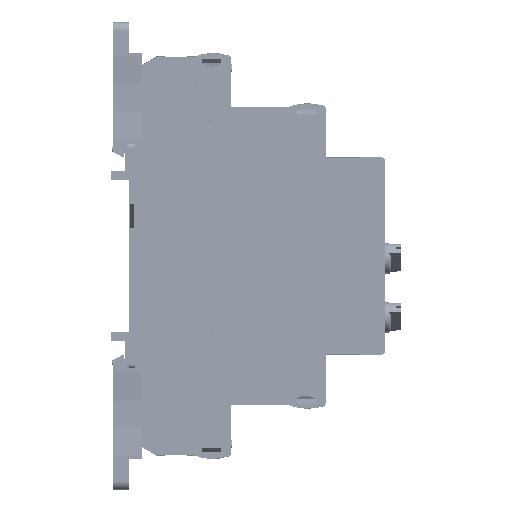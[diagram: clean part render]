
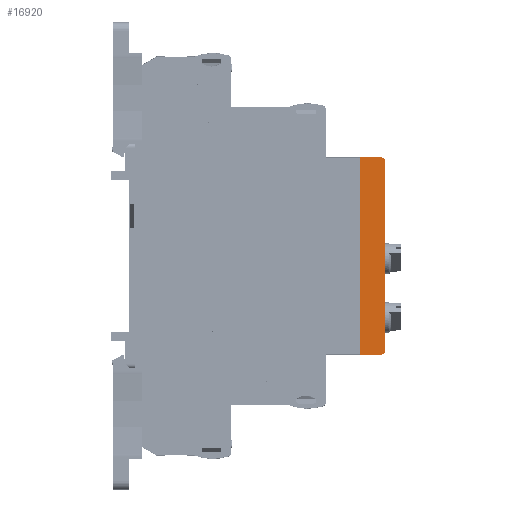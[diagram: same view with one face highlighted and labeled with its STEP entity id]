
A CAD part, front view. The second image highlights one B-rep face of the part: STEP entity #16920.
In plain terms, the highlighted planar face has unit normal (0, -1, 0) as drawn and (1, 0, 0) by its records, which use the part's own axes.
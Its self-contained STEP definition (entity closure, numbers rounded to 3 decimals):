
#16920=ADVANCED_FACE('',(#195371),#195373,.F.);
#195371=FACE_BOUND('',#195372,.T.);
#195372=EDGE_LOOP('',(#330201,#330202,#330203,#330204,#330205,#330206));
#195373=PLANE('',#195374);
#195374=AXIS2_PLACEMENT_3D('',#195375,#195376,#195377);
#195375=CARTESIAN_POINT('',(8.875,-22.6,1.5));
#195376=DIRECTION('',(-1.,0.,0.));
#195377=DIRECTION('',(0.,0.,1.));
#330201=ORIENTED_EDGE('',*,*,#464139,.T.);
#330202=ORIENTED_EDGE('',*,*,#464171,.T.);
#330203=ORIENTED_EDGE('',*,*,#464172,.F.);
#330204=ORIENTED_EDGE('',*,*,#464173,.F.);
#330205=ORIENTED_EDGE('',*,*,#464174,.T.);
#330206=ORIENTED_EDGE('',*,*,#464175,.T.);
#464139=EDGE_CURVE('',#523080,#523078,#523081,.T.);
#464171=EDGE_CURVE('',#523078,#523136,#523138,.T.);
#464172=EDGE_CURVE('',#523139,#523136,#523140,.T.);
#464173=EDGE_CURVE('',#523141,#523139,#523142,.T.);
#464174=EDGE_CURVE('',#523141,#523143,#523144,.T.);
#464175=EDGE_CURVE('',#523143,#523080,#523145,.T.);
#523078=VERTEX_POINT('',#624837);
#523080=VERTEX_POINT('',#624841);
#523081=LINE('',#624842,#624843);
#523136=VERTEX_POINT('',#624961);
#523138=CIRCLE('',#624965,1.);
#523139=VERTEX_POINT('',#624969);
#523140=LINE('',#624970,#624971);
#523141=VERTEX_POINT('',#624973);
#523142=LINE('',#624974,#624975);
#523143=VERTEX_POINT('',#624977);
#523144=LINE('',#624978,#624979);
#523145=CIRCLE('',#624981,1.);
#624837=CARTESIAN_POINT('',(8.875,21.6,0.));
#624841=CARTESIAN_POINT('',(8.875,-21.6,0.));
#624842=CARTESIAN_POINT('',(8.875,-21.6,0.));
#624843=VECTOR('',#624844,1.);
#624844=DIRECTION('',(0.,1.,0.));
#624961=CARTESIAN_POINT('',(8.875,22.6,1.));
#624965=AXIS2_PLACEMENT_3D('',#624966,#624967,#624968);
#624966=CARTESIAN_POINT('',(8.875,21.6,1.));
#624967=DIRECTION('',(1.,-0.,0.));
#624968=DIRECTION('',(0.,0.,-1.));
#624969=CARTESIAN_POINT('',(8.875,22.6,5.75));
#624970=CARTESIAN_POINT('',(8.875,22.6,5.75));
#624971=VECTOR('',#624972,1.);
#624972=DIRECTION('',(0.,0.,-1.));
#624973=CARTESIAN_POINT('',(8.875,-22.6,5.75));
#624974=CARTESIAN_POINT('',(8.875,-22.6,5.75));
#624975=VECTOR('',#624976,1.);
#624976=DIRECTION('',(0.,1.,0.));
#624977=CARTESIAN_POINT('',(8.875,-22.6,1.));
#624978=CARTESIAN_POINT('',(8.875,-22.6,5.75));
#624979=VECTOR('',#624980,1.);
#624980=DIRECTION('',(0.,0.,-1.));
#624981=AXIS2_PLACEMENT_3D('',#624982,#624983,#624984);
#624982=CARTESIAN_POINT('',(8.875,-21.6,1.));
#624983=DIRECTION('',(1.,0.,-0.));
#624984=DIRECTION('',(0.,-1.,0.));
